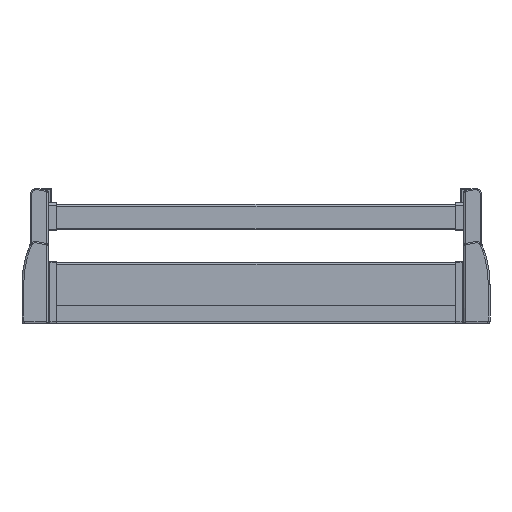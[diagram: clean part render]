
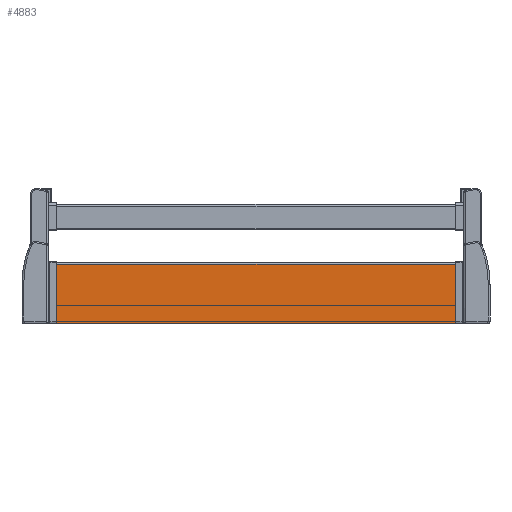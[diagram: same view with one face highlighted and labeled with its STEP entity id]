
A CAD part, top view. The second image highlights one B-rep face of the part: STEP entity #4883.
In plain terms, the highlighted planar face has unit normal (0, 0, 1).
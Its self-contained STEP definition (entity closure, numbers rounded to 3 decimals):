
#4568 = VERTEX_POINT ( 'NONE', #5111 ) ;
#4570 = EDGE_CURVE ( 'NONE', #4572, #4568, #5106, .T. ) ;
#4572 = VERTEX_POINT ( 'NONE', #5101 ) ;
#4879 = EDGE_CURVE ( 'NONE', #4572, #4880, #6772, .T. ) ;
#4880 = VERTEX_POINT ( 'NONE', #6768 ) ;
#4883 = ADVANCED_FACE ( 'NONE', ( #6767 ), #6761, .F. ) ;
#4884 = EDGE_LOOP ( 'NONE', ( #4885, #4886, #4887, #4890 ) ) ;
#4885 = ORIENTED_EDGE ( 'NONE', *, *, #4879, .F. ) ;
#4886 = ORIENTED_EDGE ( 'NONE', *, *, #4570, .T. ) ;
#4887 = ORIENTED_EDGE ( 'NONE', *, *, #4888, .T. ) ;
#4888 = EDGE_CURVE ( 'NONE', #4568, #4889, #6756, .T. ) ;
#4889 = VERTEX_POINT ( 'NONE', #6752 ) ;
#4890 = ORIENTED_EDGE ( 'NONE', *, *, #4891, .F. ) ;
#4891 = EDGE_CURVE ( 'NONE', #4880, #4889, #6751, .T. ) ;
#5101 = CARTESIAN_POINT ( 'NONE',  ( 235.8, -92.5, 1.4 ) ) ;
#5102 = DIRECTION ( 'NONE',  ( 0., 1., 0. ) ) ;
#5103 = VECTOR ( 'NONE', #5102, 1000. ) ;
#5105 = CARTESIAN_POINT ( 'NONE',  ( 235.8, -92.5, 1.4 ) ) ;
#5106 = LINE ( 'NONE', #5105, #5103 ) ;
#5111 = CARTESIAN_POINT ( 'NONE',  ( 235.8, -23., 1.4 ) ) ;
#6748 = DIRECTION ( 'NONE',  ( 0., 1., 0. ) ) ;
#6749 = VECTOR ( 'NONE', #6748, 1000. ) ;
#6750 = CARTESIAN_POINT ( 'NONE',  ( -235.8, -92.5, 1.4 ) ) ;
#6751 = LINE ( 'NONE', #6750, #6749 ) ;
#6752 = CARTESIAN_POINT ( 'NONE',  ( -235.8, -23., 1.4 ) ) ;
#6753 = DIRECTION ( 'NONE',  ( -1., 0., 0. ) ) ;
#6754 = VECTOR ( 'NONE', #6753, 1000. ) ;
#6755 = CARTESIAN_POINT ( 'NONE',  ( 309.556, -23., 1.4 ) ) ;
#6756 = LINE ( 'NONE', #6755, #6754 ) ;
#6757 = DIRECTION ( 'NONE',  ( 0., 1., 0. ) ) ;
#6758 = DIRECTION ( 'NONE',  ( 0., 0., -1. ) ) ;
#6759 = CARTESIAN_POINT ( 'NONE',  ( 309.556, -92.5, 1.4 ) ) ;
#6760 = AXIS2_PLACEMENT_3D ( 'NONE', #6759, #6758, #6757 ) ;
#6761 = PLANE ( 'NONE',  #6760 ) ;
#6767 = FACE_OUTER_BOUND ( 'NONE', #4884, .T. ) ;
#6768 = CARTESIAN_POINT ( 'NONE',  ( -235.8, -92.5, 1.4 ) ) ;
#6769 = DIRECTION ( 'NONE',  ( -1., 0., 0. ) ) ;
#6770 = VECTOR ( 'NONE', #6769, 1000. ) ;
#6771 = CARTESIAN_POINT ( 'NONE',  ( 309.556, -92.5, 1.4 ) ) ;
#6772 = LINE ( 'NONE', #6771, #6770 ) ;
